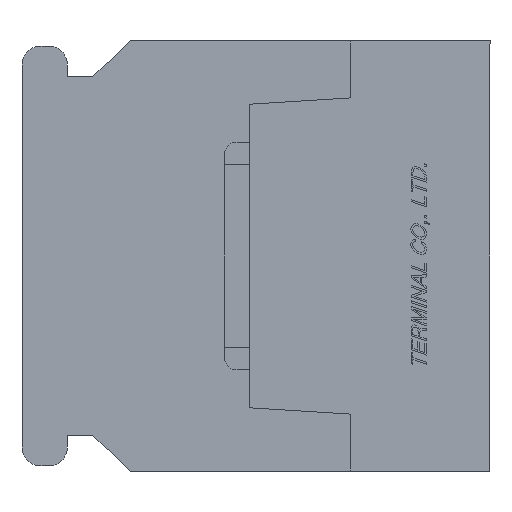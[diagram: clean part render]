
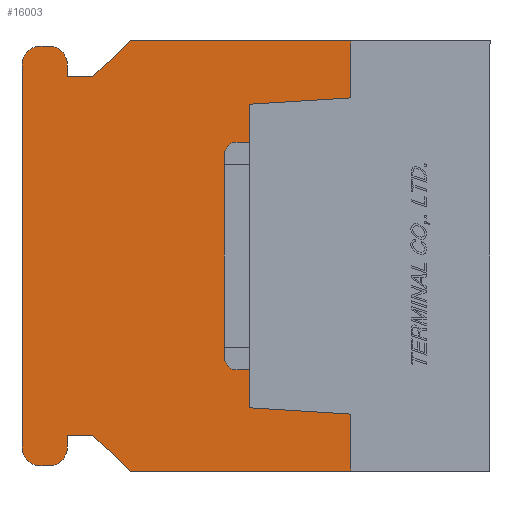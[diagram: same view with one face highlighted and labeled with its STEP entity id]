
A CAD part, left-side view. The second image highlights one B-rep face of the part: STEP entity #16003.
In plain terms, the highlighted planar face has unit normal (-1, 0, 0).
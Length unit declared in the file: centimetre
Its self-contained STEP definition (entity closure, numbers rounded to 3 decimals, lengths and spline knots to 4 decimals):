
#1186=VECTOR('',#18014,1.);
#1244=VECTOR('',#18098,1.);
#1483=VECTOR('',#18549,1.);
#1484=VECTOR('',#18550,1.);
#1485=VECTOR('',#18551,1.);
#1486=VECTOR('',#18552,1.);
#1487=VECTOR('',#18555,1.);
#1488=VECTOR('',#18558,1.);
#1489=VECTOR('',#18561,1.);
#1490=VECTOR('',#18564,1.);
#1491=VECTOR('',#18565,1.);
#1492=VECTOR('',#18566,1.);
#1493=VECTOR('',#18567,1.);
#1494=VECTOR('',#18568,1.);
#1495=VECTOR('',#18569,1.);
#1496=VECTOR('',#18570,1.);
#2908=LINE('',#21861,#1186);
#2966=LINE('',#21984,#1244);
#3205=LINE('',#22545,#1483);
#3206=LINE('',#22547,#1484);
#3207=LINE('',#22549,#1485);
#3208=LINE('',#22551,#1486);
#3209=LINE('',#22555,#1487);
#3210=LINE('',#22559,#1488);
#3211=LINE('',#22563,#1489);
#3212=LINE('',#22567,#1490);
#3213=LINE('',#22569,#1491);
#3214=LINE('',#22571,#1492);
#3215=LINE('',#22572,#1493);
#3216=LINE('',#22574,#1494);
#3217=LINE('',#22576,#1495);
#3218=LINE('',#22578,#1496);
#4423=PLANE('',#26549);
#5342=VERTEX_POINT('',#21860);
#5343=VERTEX_POINT('',#21862);
#5389=VERTEX_POINT('',#21983);
#5390=VERTEX_POINT('',#21985);
#5562=VERTEX_POINT('',#22546);
#5563=VERTEX_POINT('',#22548);
#5564=VERTEX_POINT('',#22550);
#5565=VERTEX_POINT('',#22552);
#5566=VERTEX_POINT('',#22554);
#5567=VERTEX_POINT('',#22556);
#5568=VERTEX_POINT('',#22558);
#5569=VERTEX_POINT('',#22560);
#5570=VERTEX_POINT('',#22562);
#5571=VERTEX_POINT('',#22564);
#5572=VERTEX_POINT('',#22566);
#5573=VERTEX_POINT('',#22568);
#5574=VERTEX_POINT('',#22570);
#5575=VERTEX_POINT('',#22573);
#5576=VERTEX_POINT('',#22575);
#5577=VERTEX_POINT('',#22577);
#6567=CIRCLE('',#26550,0.075);
#6568=CIRCLE('',#26551,0.075);
#6569=CIRCLE('',#26552,0.075);
#6570=CIRCLE('',#26553,0.075);
#7467=EDGE_CURVE('',#5342,#5343,#2908,.T.);
#7529=EDGE_CURVE('',#5389,#5390,#2966,.T.);
#7810=EDGE_CURVE('',#5562,#5390,#3205,.T.);
#7811=EDGE_CURVE('',#5563,#5389,#3206,.T.);
#7812=EDGE_CURVE('',#5564,#5563,#3207,.T.);
#7813=EDGE_CURVE('',#5565,#5564,#3208,.T.);
#7814=EDGE_CURVE('',#5566,#5565,#6567,.T.);
#7815=EDGE_CURVE('',#5567,#5566,#3209,.T.);
#7816=EDGE_CURVE('',#5568,#5567,#6568,.T.);
#7817=EDGE_CURVE('',#5569,#5568,#3210,.T.);
#7818=EDGE_CURVE('',#5570,#5569,#6569,.T.);
#7819=EDGE_CURVE('',#5571,#5570,#3211,.T.);
#7820=EDGE_CURVE('',#5572,#5571,#6570,.T.);
#7821=EDGE_CURVE('',#5573,#5572,#3212,.T.);
#7822=EDGE_CURVE('',#5574,#5573,#3213,.T.);
#7823=EDGE_CURVE('',#5343,#5574,#3214,.T.);
#7824=EDGE_CURVE('',#5342,#5575,#3215,.T.);
#7825=EDGE_CURVE('',#5575,#5576,#3216,.T.);
#7826=EDGE_CURVE('',#5576,#5577,#3217,.T.);
#7827=EDGE_CURVE('',#5577,#5562,#3218,.T.);
#11300=ORIENTED_EDGE('',*,*,#7810,.T.);
#11301=ORIENTED_EDGE('',*,*,#7529,.F.);
#11302=ORIENTED_EDGE('',*,*,#7811,.F.);
#11303=ORIENTED_EDGE('',*,*,#7812,.F.);
#11304=ORIENTED_EDGE('',*,*,#7813,.F.);
#11305=ORIENTED_EDGE('',*,*,#7814,.F.);
#11306=ORIENTED_EDGE('',*,*,#7815,.F.);
#11307=ORIENTED_EDGE('',*,*,#7816,.F.);
#11308=ORIENTED_EDGE('',*,*,#7817,.F.);
#11309=ORIENTED_EDGE('',*,*,#7818,.F.);
#11310=ORIENTED_EDGE('',*,*,#7819,.F.);
#11311=ORIENTED_EDGE('',*,*,#7820,.F.);
#11312=ORIENTED_EDGE('',*,*,#7821,.F.);
#11313=ORIENTED_EDGE('',*,*,#7822,.F.);
#11314=ORIENTED_EDGE('',*,*,#7823,.F.);
#11315=ORIENTED_EDGE('',*,*,#7467,.F.);
#11316=ORIENTED_EDGE('',*,*,#7824,.T.);
#11317=ORIENTED_EDGE('',*,*,#7825,.T.);
#11318=ORIENTED_EDGE('',*,*,#7826,.T.);
#11319=ORIENTED_EDGE('',*,*,#7827,.T.);
#14117=EDGE_LOOP('',(#11300,#11301,#11302,#11303,#11304,#11305,#11306,#11307,
#11308,#11309,#11310,#11311,#11312,#11313,#11314,#11315,#11316,#11317,#11318,
#11319));
#15091=FACE_BOUND('',#14117,.T.);
#16003=ADVANCED_FACE('',(#15091),#4423,.F.);
#18014=DIRECTION('',(0.,1.,0.));
#18098=DIRECTION('',(0.,-1.,0.));
#18548=DIRECTION('',(1.,0.,0.));
#18549=DIRECTION('',(0.,0.,1.));
#18550=DIRECTION('',(0.,-0.731,0.682));
#18551=DIRECTION('',(0.,-1.,0.));
#18552=DIRECTION('',(0.,0.,-1.));
#18553=DIRECTION('',(1.,0.,0.));
#18554=DIRECTION('',(0.,0.,-0.075));
#18555=DIRECTION('',(0.,-1.,0.));
#18556=DIRECTION('',(1.,0.,0.));
#18557=DIRECTION('',(0.,0.,-0.075));
#18558=DIRECTION('',(0.,0.,1.));
#18559=DIRECTION('',(1.,0.,0.));
#18560=DIRECTION('',(0.,0.,-0.075));
#18561=DIRECTION('',(0.,1.,0.));
#18562=DIRECTION('',(1.,0.,0.));
#18563=DIRECTION('',(0.,0.,-0.075));
#18564=DIRECTION('',(0.,0.,-1.));
#18565=DIRECTION('',(0.,1.,0.));
#18566=DIRECTION('',(0.,0.731,0.682));
#18567=DIRECTION('',(0.,0.,1.));
#18568=DIRECTION('',(0.,0.998,0.062));
#18569=DIRECTION('',(0.,0.,1.));
#18570=DIRECTION('',(0.,-0.998,0.062));
#21860=CARTESIAN_POINT('',(-1.,0.55,-0.85));
#21861=CARTESIAN_POINT('',(-1.,0.,-0.85));
#21862=CARTESIAN_POINT('',(-1.,1.42,-0.85));
#21983=CARTESIAN_POINT('',(-1.,1.42,0.85));
#21984=CARTESIAN_POINT('',(-1.,1.42,0.85));
#21985=CARTESIAN_POINT('',(-1.,0.55,0.85));
#22544=CARTESIAN_POINT('',(-1.,0.9383,0.));
#22545=CARTESIAN_POINT('',(-1.,0.55,0.3687));
#22546=CARTESIAN_POINT('',(-1.,0.55,0.625));
#22547=CARTESIAN_POINT('',(-1.,1.57,0.71));
#22548=CARTESIAN_POINT('',(-1.,1.57,0.71));
#22549=CARTESIAN_POINT('',(-1.,1.67,0.71));
#22550=CARTESIAN_POINT('',(-1.,1.67,0.71));
#22551=CARTESIAN_POINT('',(-1.,1.67,0.755));
#22552=CARTESIAN_POINT('',(-1.,1.67,0.755));
#22553=CARTESIAN_POINT('',(-1.,1.745,0.755));
#22554=CARTESIAN_POINT('',(-1.,1.745,0.83));
#22555=CARTESIAN_POINT('',(-1.,1.775,0.83));
#22556=CARTESIAN_POINT('',(-1.,1.775,0.83));
#22557=CARTESIAN_POINT('',(-1.,1.775,0.755));
#22558=CARTESIAN_POINT('',(-1.,1.85,0.755));
#22559=CARTESIAN_POINT('',(-1.,1.85,-0.755));
#22560=CARTESIAN_POINT('',(-1.,1.85,-0.755));
#22561=CARTESIAN_POINT('',(-1.,1.775,-0.755));
#22562=CARTESIAN_POINT('',(-1.,1.775,-0.83));
#22563=CARTESIAN_POINT('',(-1.,1.745,-0.83));
#22564=CARTESIAN_POINT('',(-1.,1.745,-0.83));
#22565=CARTESIAN_POINT('',(-1.,1.745,-0.755));
#22566=CARTESIAN_POINT('',(-1.,1.67,-0.755));
#22567=CARTESIAN_POINT('',(-1.,1.67,-0.71));
#22568=CARTESIAN_POINT('',(-1.,1.67,-0.71));
#22569=CARTESIAN_POINT('',(-1.,1.57,-0.71));
#22570=CARTESIAN_POINT('',(-1.,1.57,-0.71));
#22571=CARTESIAN_POINT('',(-1.,1.42,-0.85));
#22572=CARTESIAN_POINT('',(-1.,0.55,-0.3688));
#22573=CARTESIAN_POINT('',(-1.,0.55,-0.625));
#22574=CARTESIAN_POINT('',(-1.,0.8629,-0.6054));
#22575=CARTESIAN_POINT('',(-1.,0.95,-0.6));
#22576=CARTESIAN_POINT('',(-1.,0.95,0.));
#22577=CARTESIAN_POINT('',(-1.,0.95,0.6));
#22578=CARTESIAN_POINT('',(-1.,0.8629,0.6054));
#26549=AXIS2_PLACEMENT_3D('',#22544,#18548,$);
#26550=AXIS2_PLACEMENT_3D('',#22553,#18553,#18554);
#26551=AXIS2_PLACEMENT_3D('',#22557,#18556,#18557);
#26552=AXIS2_PLACEMENT_3D('',#22561,#18559,#18560);
#26553=AXIS2_PLACEMENT_3D('',#22565,#18562,#18563);
